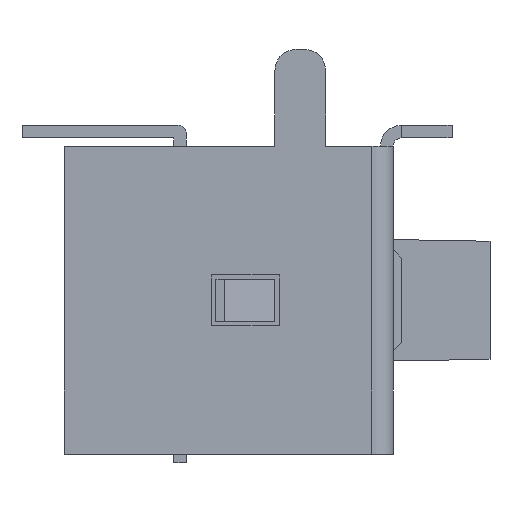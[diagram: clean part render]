
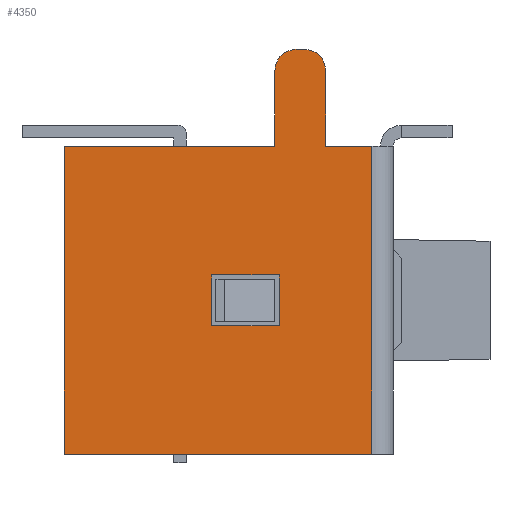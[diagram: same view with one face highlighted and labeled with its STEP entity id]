
A CAD part, left-side view. The second image highlights one B-rep face of the part: STEP entity #4350.
In plain terms, the highlighted planar face has unit normal (-1, 0, 0).
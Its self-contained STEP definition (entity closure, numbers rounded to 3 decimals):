
#3157=DIRECTION('',(0.,0.,1.));
#3158=VECTOR('',#3157,3.65);
#3159=CARTESIAN_POINT('',(-3.7,0.1,-1.825));
#3160=LINE('',#3159,#3158);
#3175=DIRECTION('',(0.,0.,1.));
#3176=VECTOR('',#3175,0.6);
#3177=CARTESIAN_POINT('',(-3.7,1.2,-0.3));
#3178=LINE('',#3177,#3176);
#3179=DIRECTION('',(0.,1.,0.));
#3180=VECTOR('',#3179,0.8);
#3181=CARTESIAN_POINT('',(-3.7,1.2,0.3));
#3182=LINE('',#3181,#3180);
#3183=DIRECTION('',(0.,0.,-1.));
#3184=VECTOR('',#3183,0.6);
#3185=CARTESIAN_POINT('',(-3.7,2.,0.3));
#3186=LINE('',#3185,#3184);
#3187=DIRECTION('',(0.,-1.,0.));
#3188=VECTOR('',#3187,0.8);
#3189=CARTESIAN_POINT('',(-3.7,2.,-0.3));
#3190=LINE('',#3189,#3188);
#3191=CARTESIAN_POINT('',(-3.7,0.9,2.725));
#3192=DIRECTION('',(-1.,0.,0.));
#3193=DIRECTION('',(0.,-1.,0.));
#3194=AXIS2_PLACEMENT_3D('',#3191,#3192,#3193);
#3196=DIRECTION('',(0.,0.,1.));
#3197=VECTOR('',#3196,0.9);
#3198=CARTESIAN_POINT('',(-3.7,0.65,1.825));
#3199=LINE('',#3198,#3197);
#3200=DIRECTION('',(0.,1.,0.));
#3201=VECTOR('',#3200,0.55);
#3202=CARTESIAN_POINT('',(-3.7,0.1,1.825));
#3203=LINE('',#3202,#3201);
#3204=DIRECTION('',(0.,-1.,0.));
#3205=VECTOR('',#3204,3.65);
#3206=CARTESIAN_POINT('',(-3.7,3.75,-1.825));
#3207=LINE('',#3206,#3205);
#3208=DIRECTION('',(0.,0.,-1.));
#3209=VECTOR('',#3208,3.65);
#3210=CARTESIAN_POINT('',(-3.7,3.75,1.825));
#3211=LINE('',#3210,#3209);
#3212=DIRECTION('',(0.,1.,0.));
#3213=VECTOR('',#3212,2.5);
#3214=CARTESIAN_POINT('',(-3.7,1.25,1.825));
#3215=LINE('',#3214,#3213);
#3216=DIRECTION('',(0.,0.,-1.));
#3217=VECTOR('',#3216,0.9);
#3218=CARTESIAN_POINT('',(-3.7,1.25,2.725));
#3219=LINE('',#3218,#3217);
#3220=CARTESIAN_POINT('',(-3.7,1.,2.725));
#3221=DIRECTION('',(-1.,0.,0.));
#3222=DIRECTION('',(0.,0.,1.));
#3223=AXIS2_PLACEMENT_3D('',#3220,#3221,#3222);
#3225=DIRECTION('',(0.,1.,0.));
#3226=VECTOR('',#3225,0.1);
#3227=CARTESIAN_POINT('',(-3.7,0.9,2.975));
#3228=LINE('',#3227,#3226);
#3661=CARTESIAN_POINT('',(-3.7,3.75,1.825));
#3662=CARTESIAN_POINT('',(-3.7,3.75,-1.825));
#3663=VERTEX_POINT('',#3661);
#3664=VERTEX_POINT('',#3662);
#3665=CARTESIAN_POINT('',(-3.7,0.1,-1.825));
#3666=VERTEX_POINT('',#3665);
#3667=CARTESIAN_POINT('',(-3.7,0.1,1.825));
#3668=VERTEX_POINT('',#3667);
#3797=CARTESIAN_POINT('',(-3.7,1.25,1.825));
#3799=VERTEX_POINT('',#3797);
#3801=CARTESIAN_POINT('',(-3.7,0.65,1.825));
#3803=VERTEX_POINT('',#3801);
#3821=CARTESIAN_POINT('',(-3.7,1.2,-0.3));
#3822=CARTESIAN_POINT('',(-3.7,1.2,0.3));
#3823=VERTEX_POINT('',#3821);
#3824=VERTEX_POINT('',#3822);
#3825=CARTESIAN_POINT('',(-3.7,2.,0.3));
#3826=VERTEX_POINT('',#3825);
#3827=CARTESIAN_POINT('',(-3.7,2.,-0.3));
#3828=VERTEX_POINT('',#3827);
#3837=CARTESIAN_POINT('',(-3.7,0.65,2.725));
#3838=CARTESIAN_POINT('',(-3.7,0.9,2.975));
#3839=VERTEX_POINT('',#3837);
#3840=VERTEX_POINT('',#3838);
#3845=CARTESIAN_POINT('',(-3.7,1.,2.975));
#3846=CARTESIAN_POINT('',(-3.7,1.25,2.725));
#3847=VERTEX_POINT('',#3845);
#3848=VERTEX_POINT('',#3846);
#4314=CARTESIAN_POINT('',(-3.7,-0.15,1.825));
#4315=DIRECTION('',(-1.,0.,0.));
#4316=DIRECTION('',(0.,0.,1.));
#4317=AXIS2_PLACEMENT_3D('',#4314,#4315,#4316);
#4318=PLANE('',#4317);
#4320=ORIENTED_EDGE('',*,*,#4319,.F.);
#4322=ORIENTED_EDGE('',*,*,#4321,.F.);
#4324=ORIENTED_EDGE('',*,*,#4323,.F.);
#4325=ORIENTED_EDGE('',*,*,#4305,.F.);
#4327=ORIENTED_EDGE('',*,*,#4326,.F.);
#4329=ORIENTED_EDGE('',*,*,#4328,.F.);
#4331=ORIENTED_EDGE('',*,*,#4330,.F.);
#4333=ORIENTED_EDGE('',*,*,#4332,.F.);
#4335=ORIENTED_EDGE('',*,*,#4334,.F.);
#4337=ORIENTED_EDGE('',*,*,#4336,.F.);
#4338=EDGE_LOOP('',(#4320,#4322,#4324,#4325,#4327,#4329,#4331,#4333,#4335,
#4337));
#4339=FACE_OUTER_BOUND('',#4338,.F.);
#4341=ORIENTED_EDGE('',*,*,#4340,.T.);
#4343=ORIENTED_EDGE('',*,*,#4342,.T.);
#4345=ORIENTED_EDGE('',*,*,#4344,.T.);
#4347=ORIENTED_EDGE('',*,*,#4346,.T.);
#4348=EDGE_LOOP('',(#4341,#4343,#4345,#4347));
#4349=FACE_BOUND('',#4348,.F.);
#3195=CIRCLE('',#3194,0.25);
#3224=CIRCLE('',#3223,0.25);
#4305=EDGE_CURVE('',#3666,#3668,#3160,.T.);
#4319=EDGE_CURVE('',#3839,#3840,#3195,.T.);
#4321=EDGE_CURVE('',#3803,#3839,#3199,.T.);
#4323=EDGE_CURVE('',#3668,#3803,#3203,.T.);
#4326=EDGE_CURVE('',#3664,#3666,#3207,.T.);
#4328=EDGE_CURVE('',#3663,#3664,#3211,.T.);
#4330=EDGE_CURVE('',#3799,#3663,#3215,.T.);
#4332=EDGE_CURVE('',#3848,#3799,#3219,.T.);
#4334=EDGE_CURVE('',#3847,#3848,#3224,.T.);
#4336=EDGE_CURVE('',#3840,#3847,#3228,.T.);
#4340=EDGE_CURVE('',#3823,#3824,#3178,.T.);
#4342=EDGE_CURVE('',#3824,#3826,#3182,.T.);
#4344=EDGE_CURVE('',#3826,#3828,#3186,.T.);
#4346=EDGE_CURVE('',#3828,#3823,#3190,.T.);
#4350=ADVANCED_FACE('',(#4339,#4349),#4318,.T.);
